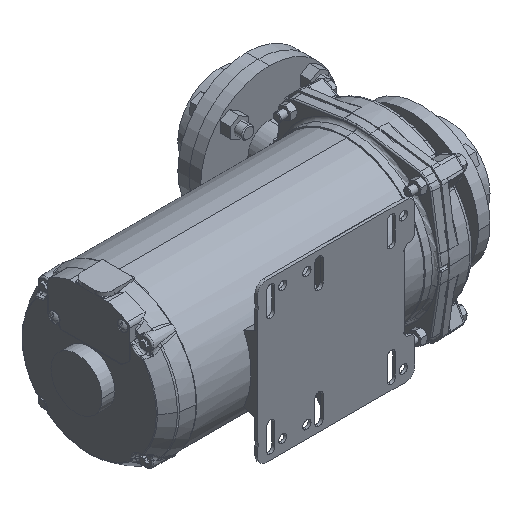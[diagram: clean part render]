
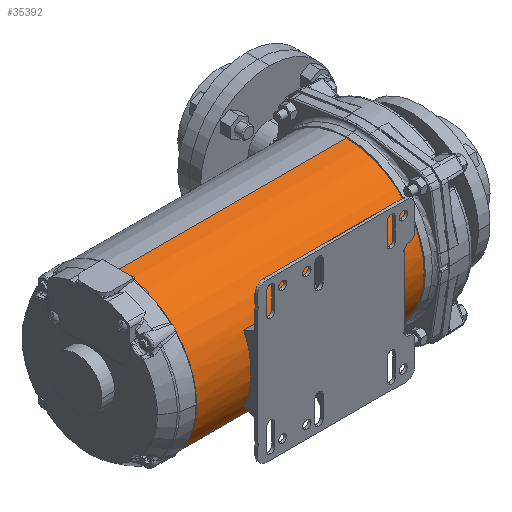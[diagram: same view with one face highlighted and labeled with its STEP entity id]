
A CAD part, isometric view. The second image highlights one B-rep face of the part: STEP entity #35392.
In plain terms, the highlighted cylindrical face has radius 81.875 mm (diameter 163.75 mm), a partial arc.
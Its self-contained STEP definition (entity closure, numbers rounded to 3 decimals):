
#9 = LINE ( 'NONE', #4456, #12347 ) ;
#127 = CARTESIAN_POINT ( 'NONE',  ( -286.851, 89.619, 962.588 ) ) ;
#132 = AXIS2_PLACEMENT_3D ( 'NONE', #18440, #33928, #46269 ) ;
#1160 = VERTEX_POINT ( 'NONE', #1965 ) ;
#1772 = EDGE_CURVE ( 'NONE', #4888, #36492, #2105, .T. ) ;
#1965 = CARTESIAN_POINT ( 'NONE',  ( -104.801, 163.797, 915.369 ) ) ;
#2105 = LINE ( 'NONE', #42235, #15203 ) ;
#2929 = VERTEX_POINT ( 'NONE', #16570 ) ;
#3053 = CARTESIAN_POINT ( 'NONE',  ( -344.801, 163.797, 997.244 ) ) ;
#3961 = ORIENTED_EDGE ( 'NONE', *, *, #20073, .T. ) ;
#4396 = DIRECTION ( 'NONE',  ( 0., 0., 1. ) ) ;
#4456 = CARTESIAN_POINT ( 'NONE',  ( -344.801, 89.619, 962.588 ) ) ;
#4594 = EDGE_LOOP ( 'NONE', ( #9987, #11265, #7554, #3961 ) ) ;
#4888 = VERTEX_POINT ( 'NONE', #44806 ) ;
#5020 = DIRECTION ( 'NONE',  ( 0., 0., 1. ) ) ;
#5279 = ORIENTED_EDGE ( 'NONE', *, *, #51625, .F. ) ;
#5961 = ORIENTED_EDGE ( 'NONE', *, *, #13749, .T. ) ;
#6106 = CARTESIAN_POINT ( 'NONE',  ( -159., 89.619, 962.588 ) ) ;
#6712 = VERTEX_POINT ( 'NONE', #37804 ) ;
#6790 = CARTESIAN_POINT ( 'NONE',  ( -210., 99.409, 946.671 ) ) ;
#7301 = ORIENTED_EDGE ( 'NONE', *, *, #42209, .T. ) ;
#7554 = ORIENTED_EDGE ( 'NONE', *, *, #40072, .T. ) ;
#7665 = LINE ( 'NONE', #47299, #45243 ) ;
#8057 = CIRCLE ( 'NONE', #22319, 81.875 ) ;
#8313 = VERTEX_POINT ( 'NONE', #6790 ) ;
#8714 = VERTEX_POINT ( 'NONE', #32455 ) ;
#9513 = EDGE_CURVE ( 'NONE', #34124, #30294, #34940, .T. ) ;
#9987 = ORIENTED_EDGE ( 'NONE', *, *, #45481, .F. ) ;
#10969 = CIRCLE ( 'NONE', #13501, 81.875 ) ;
#11265 = ORIENTED_EDGE ( 'NONE', *, *, #43966, .F. ) ;
#11413 = CARTESIAN_POINT ( 'NONE',  ( -344.801, 163.797, 915.369 ) ) ;
#11831 = ORIENTED_EDGE ( 'NONE', *, *, #40303, .F. ) ;
#12155 = VECTOR ( 'NONE', #44852, 1000. ) ;
#12347 = VECTOR ( 'NONE', #36183, 1000. ) ;
#12455 = DIRECTION ( 'NONE',  ( -1., 0., 0. ) ) ;
#13501 = AXIS2_PLACEMENT_3D ( 'NONE', #31697, #51887, #15927 ) ;
#13749 = EDGE_CURVE ( 'NONE', #19947, #8714, #7665, .T. ) ;
#14470 = VERTEX_POINT ( 'NONE', #16474 ) ;
#14590 = EDGE_CURVE ( 'NONE', #46642, #36492, #38422, .T. ) ;
#14647 = LINE ( 'NONE', #30702, #25236 ) ;
#15131 = CARTESIAN_POINT ( 'NONE',  ( -159., 89.619, 1031.9 ) ) ;
#15203 = VECTOR ( 'NONE', #49588, 1000. ) ;
#15618 = DIRECTION ( 'NONE',  ( 0., 0., 1. ) ) ;
#15786 = DIRECTION ( 'NONE',  ( 1., 0., 0. ) ) ;
#15927 = DIRECTION ( 'NONE',  ( 0., 0., -1. ) ) ;
#16093 = DIRECTION ( 'NONE',  ( 1., 0., 0. ) ) ;
#16474 = CARTESIAN_POINT ( 'NONE',  ( -344.801, 163.797, 915.369 ) ) ;
#16510 = CARTESIAN_POINT ( 'NONE',  ( -286.851, 89.619, 1031.9 ) ) ;
#16570 = CARTESIAN_POINT ( 'NONE',  ( -210., 89.619, 962.588 ) ) ;
#16923 = LINE ( 'NONE', #28513, #24755 ) ;
#17336 = ORIENTED_EDGE ( 'NONE', *, *, #46512, .T. ) ;
#17982 = AXIS2_PLACEMENT_3D ( 'NONE', #45226, #29472, #40759 ) ;
#18127 = EDGE_CURVE ( 'NONE', #30294, #32079, #43095, .T. ) ;
#18440 = CARTESIAN_POINT ( 'NONE',  ( -210., 163.797, 997.244 ) ) ;
#19235 = VERTEX_POINT ( 'NONE', #127 ) ;
#19510 = AXIS2_PLACEMENT_3D ( 'NONE', #3053, #35536, #15618 ) ;
#19771 = DIRECTION ( 'NONE',  ( 1., 0., 0. ) ) ;
#19947 = VERTEX_POINT ( 'NONE', #15131 ) ;
#20073 = EDGE_CURVE ( 'NONE', #1160, #39694, #36137, .T. ) ;
#20079 = EDGE_CURVE ( 'NONE', #8714, #4888, #10969, .T. ) ;
#20412 = CARTESIAN_POINT ( 'NONE',  ( -104.801, 163.797, 997.244 ) ) ;
#21021 = ORIENTED_EDGE ( 'NONE', *, *, #14590, .F. ) ;
#21043 = DIRECTION ( 'NONE',  ( 0., 0., -1. ) ) ;
#21418 = ORIENTED_EDGE ( 'NONE', *, *, #39435, .F. ) ;
#21797 = ORIENTED_EDGE ( 'NONE', *, *, #18127, .T. ) ;
#22319 = AXIS2_PLACEMENT_3D ( 'NONE', #37767, #29957, #5020 ) ;
#22519 = ORIENTED_EDGE ( 'NONE', *, *, #20079, .T. ) ;
#23309 = ORIENTED_EDGE ( 'NONE', *, *, #41280, .F. ) ;
#23904 = CARTESIAN_POINT ( 'NONE',  ( -159., 99.409, 1047.818 ) ) ;
#23927 = VECTOR ( 'NONE', #19771, 1000. ) ;
#23949 = CARTESIAN_POINT ( 'NONE',  ( -344.801, 99.409, 946.671 ) ) ;
#24189 = CARTESIAN_POINT ( 'NONE',  ( -286.851, 163.797, 997.244 ) ) ;
#24755 = VECTOR ( 'NONE', #12455, 1000. ) ;
#24897 = AXIS2_PLACEMENT_3D ( 'NONE', #24189, #15786, #21043 ) ;
#25236 = VECTOR ( 'NONE', #34595, 1000. ) ;
#25411 = CARTESIAN_POINT ( 'NONE',  ( -210., 99.409, 1047.818 ) ) ;
#26120 = AXIS2_PLACEMENT_3D ( 'NONE', #20412, #27522, #4396 ) ;
#27011 = AXIS2_PLACEMENT_3D ( 'NONE', #47845, #16093, #40501 ) ;
#27162 = EDGE_LOOP ( 'NONE', ( #21021, #21418, #17336, #7301, #23309, #33419, #21797, #5279, #11831, #5961, #22519, #33513 ) ) ;
#27399 = LINE ( 'NONE', #23949, #23927 ) ;
#27502 = VERTEX_POINT ( 'NONE', #23904 ) ;
#27522 = DIRECTION ( 'NONE',  ( -1., 0., 0. ) ) ;
#28513 = CARTESIAN_POINT ( 'NONE',  ( -344.801, 99.409, 1047.818 ) ) ;
#29472 = DIRECTION ( 'NONE',  ( -1., 0., 0. ) ) ;
#29617 = CIRCLE ( 'NONE', #19510, 81.875 ) ;
#29957 = DIRECTION ( 'NONE',  ( -1., 0., 0. ) ) ;
#30294 = VERTEX_POINT ( 'NONE', #40271 ) ;
#30419 = CARTESIAN_POINT ( 'NONE',  ( -104.801, 163.797, 1079.119 ) ) ;
#30702 = CARTESIAN_POINT ( 'NONE',  ( -344.801, 163.797, 1079.119 ) ) ;
#31697 = CARTESIAN_POINT ( 'NONE',  ( -132.851, 163.797, 997.244 ) ) ;
#32079 = VERTEX_POINT ( 'NONE', #25411 ) ;
#32161 = DIRECTION ( 'NONE',  ( 1., 0., 0. ) ) ;
#32455 = CARTESIAN_POINT ( 'NONE',  ( -132.851, 89.619, 1031.9 ) ) ;
#32539 = CARTESIAN_POINT ( 'NONE',  ( -159., 99.409, 946.671 ) ) ;
#33419 = ORIENTED_EDGE ( 'NONE', *, *, #9513, .T. ) ;
#33513 = ORIENTED_EDGE ( 'NONE', *, *, #1772, .T. ) ;
#33748 = CARTESIAN_POINT ( 'NONE',  ( -159., 163.797, 997.244 ) ) ;
#33928 = DIRECTION ( 'NONE',  ( -1., 0., 0. ) ) ;
#34124 = VERTEX_POINT ( 'NONE', #16510 ) ;
#34595 = DIRECTION ( 'NONE',  ( 1., 0., 0. ) ) ;
#34940 = LINE ( 'NONE', #44323, #12155 ) ;
#35392 = ADVANCED_FACE ( 'NONE', ( #48119, #43927 ), #43659, .T. ) ;
#35536 = DIRECTION ( 'NONE',  ( -1., 0., 0. ) ) ;
#35669 = VECTOR ( 'NONE', #32161, 1000. ) ;
#36137 = CIRCLE ( 'NONE', #26120, 81.875 ) ;
#36183 = DIRECTION ( 'NONE',  ( -1., 0., 0. ) ) ;
#36492 = VERTEX_POINT ( 'NONE', #6106 ) ;
#37681 = DIRECTION ( 'NONE',  ( 0., 0., 1. ) ) ;
#37767 = CARTESIAN_POINT ( 'NONE',  ( -159., 163.797, 997.244 ) ) ;
#37804 = CARTESIAN_POINT ( 'NONE',  ( -344.801, 163.797, 1079.119 ) ) ;
#38422 = CIRCLE ( 'NONE', #46833, 81.875 ) ;
#39435 = EDGE_CURVE ( 'NONE', #8313, #46642, #27399, .T. ) ;
#39694 = VERTEX_POINT ( 'NONE', #30419 ) ;
#40072 = EDGE_CURVE ( 'NONE', #14470, #1160, #48163, .T. ) ;
#40271 = CARTESIAN_POINT ( 'NONE',  ( -210., 89.619, 1031.9 ) ) ;
#40303 = EDGE_CURVE ( 'NONE', #19947, #27502, #8057, .T. ) ;
#40501 = DIRECTION ( 'NONE',  ( 0., 0., -1. ) ) ;
#40759 = DIRECTION ( 'NONE',  ( 0., 0., 1. ) ) ;
#40800 = CIRCLE ( 'NONE', #24897, 81.875 ) ;
#41280 = EDGE_CURVE ( 'NONE', #34124, #19235, #40800, .T. ) ;
#42209 = EDGE_CURVE ( 'NONE', #2929, #19235, #9, .T. ) ;
#42235 = CARTESIAN_POINT ( 'NONE',  ( -344.801, 89.619, 962.588 ) ) ;
#43095 = CIRCLE ( 'NONE', #17982, 81.875 ) ;
#43367 = DIRECTION ( 'NONE',  ( 1., 0., 0. ) ) ;
#43659 = CYLINDRICAL_SURFACE ( 'NONE', #27011, 81.875 ) ;
#43927 = FACE_BOUND ( 'NONE', #27162, .T. ) ;
#43966 = EDGE_CURVE ( 'NONE', #14470, #6712, #29617, .T. ) ;
#44323 = CARTESIAN_POINT ( 'NONE',  ( -344.801, 89.619, 1031.9 ) ) ;
#44806 = CARTESIAN_POINT ( 'NONE',  ( -132.851, 89.619, 962.588 ) ) ;
#44852 = DIRECTION ( 'NONE',  ( 1., 0., 0. ) ) ;
#45226 = CARTESIAN_POINT ( 'NONE',  ( -210., 163.797, 997.244 ) ) ;
#45243 = VECTOR ( 'NONE', #43367, 1000. ) ;
#45481 = EDGE_CURVE ( 'NONE', #6712, #39694, #14647, .T. ) ;
#46269 = DIRECTION ( 'NONE',  ( 0., 0., 1. ) ) ;
#46512 = EDGE_CURVE ( 'NONE', #8313, #2929, #50379, .T. ) ;
#46642 = VERTEX_POINT ( 'NONE', #32539 ) ;
#46833 = AXIS2_PLACEMENT_3D ( 'NONE', #33748, #50034, #37681 ) ;
#47299 = CARTESIAN_POINT ( 'NONE',  ( -344.801, 89.619, 1031.9 ) ) ;
#47845 = CARTESIAN_POINT ( 'NONE',  ( -344.801, 163.797, 997.244 ) ) ;
#48119 = FACE_OUTER_BOUND ( 'NONE', #4594, .T. ) ;
#48163 = LINE ( 'NONE', #11413, #35669 ) ;
#49588 = DIRECTION ( 'NONE',  ( -1., 0., 0. ) ) ;
#50034 = DIRECTION ( 'NONE',  ( -1., 0., 0. ) ) ;
#50379 = CIRCLE ( 'NONE', #132, 81.875 ) ;
#51625 = EDGE_CURVE ( 'NONE', #27502, #32079, #16923, .T. ) ;
#51887 = DIRECTION ( 'NONE',  ( 1., 0., 0. ) ) ;
